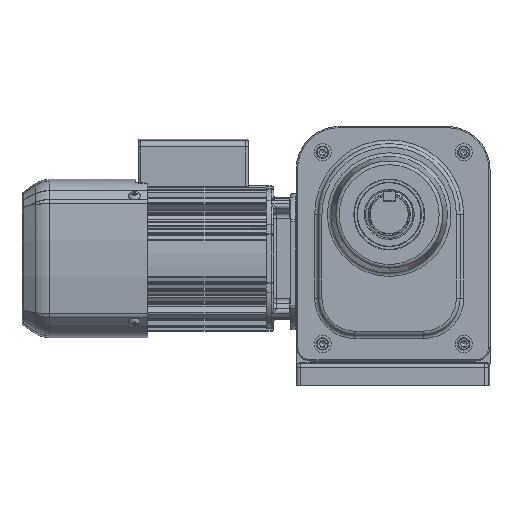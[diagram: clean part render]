
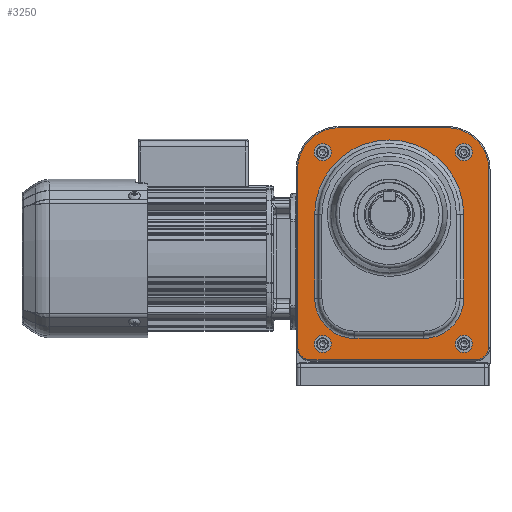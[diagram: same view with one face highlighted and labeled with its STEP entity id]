
A CAD part, front view. The second image highlights one B-rep face of the part: STEP entity #3250.
In plain terms, the highlighted planar face has unit normal (0, -1, 0).
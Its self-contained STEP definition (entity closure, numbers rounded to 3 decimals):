
#3250 = ADVANCED_FACE( '', ( #7066, #7067, #7068, #7069, #7070, #7071 ), #7072, .F. );
#7066 = FACE_BOUND( '', #15051, .T. );
#7067 = FACE_BOUND( '', #15052, .T. );
#7068 = FACE_BOUND( '', #15053, .T. );
#7069 = FACE_BOUND( '', #15054, .T. );
#7070 = FACE_BOUND( '', #15055, .T. );
#7071 = FACE_OUTER_BOUND( '', #15056, .T. );
#7072 = PLANE( '', #15057 );
#15051 = EDGE_LOOP( '', ( #26462 ) );
#15052 = EDGE_LOOP( '', ( #26463 ) );
#15053 = EDGE_LOOP( '', ( #26464 ) );
#15054 = EDGE_LOOP( '', ( #26465 ) );
#15055 = EDGE_LOOP( '', ( #26466, #26467, #26468, #26469, #26470, #26471 ) );
#15056 = EDGE_LOOP( '', ( #26472, #26473, #26474, #26475, #26476, #26477, #26478, #26479 ) );
#15057 = AXIS2_PLACEMENT_3D( '', #26480, #26481, #26482 );
#26462 = ORIENTED_EDGE( '', *, *, #31359, .T. );
#26463 = ORIENTED_EDGE( '', *, *, #33444, .T. );
#26464 = ORIENTED_EDGE( '', *, *, #32041, .T. );
#26465 = ORIENTED_EDGE( '', *, *, #33877, .T. );
#26466 = ORIENTED_EDGE( '', *, *, #33878, .T. );
#26467 = ORIENTED_EDGE( '', *, *, #33879, .T. );
#26468 = ORIENTED_EDGE( '', *, *, #33505, .T. );
#26469 = ORIENTED_EDGE( '', *, *, #30316, .T. );
#26470 = ORIENTED_EDGE( '', *, *, #31459, .T. );
#26471 = ORIENTED_EDGE( '', *, *, #33845, .T. );
#26472 = ORIENTED_EDGE( '', *, *, #32581, .T. );
#26473 = ORIENTED_EDGE( '', *, *, #31878, .T. );
#26474 = ORIENTED_EDGE( '', *, *, #33880, .T. );
#26475 = ORIENTED_EDGE( '', *, *, #31807, .T. );
#26476 = ORIENTED_EDGE( '', *, *, #31596, .T. );
#26477 = ORIENTED_EDGE( '', *, *, #33046, .T. );
#26478 = ORIENTED_EDGE( '', *, *, #31923, .T. );
#26479 = ORIENTED_EDGE( '', *, *, #33881, .T. );
#26480 = CARTESIAN_POINT( '', ( -9.725, -134., -61.966 ) );
#26481 = DIRECTION( '', ( 0., 1., 0. ) );
#26482 = DIRECTION( '', ( 0., 0., -1. ) );
#30316 = EDGE_CURVE( '', #35143, #35141, #35144, .T. );
#31359 = EDGE_CURVE( '', #36962, #36962, #36963, .T. );
#31459 = EDGE_CURVE( '', #35141, #37119, #37121, .T. );
#31596 = EDGE_CURVE( '', #37345, #37343, #37346, .F. );
#31807 = EDGE_CURVE( '', #37666, #37345, #37667, .T. );
#31878 = EDGE_CURVE( '', #37780, #37778, #37781, .T. );
#31923 = EDGE_CURVE( '', #37842, #37846, #37848, .F. );
#32041 = EDGE_CURVE( '', #38022, #38022, #38023, .T. );
#32581 = EDGE_CURVE( '', #38785, #37780, #38787, .F. );
#33046 = EDGE_CURVE( '', #37343, #37842, #39434, .T. );
#33444 = EDGE_CURVE( '', #39958, #39958, #39959, .T. );
#33505 = EDGE_CURVE( '', #40036, #35143, #40037, .T. );
#33845 = EDGE_CURVE( '', #37119, #40431, #40433, .T. );
#33877 = EDGE_CURVE( '', #40470, #40470, #40471, .T. );
#33878 = EDGE_CURVE( '', #40431, #40472, #40473, .T. );
#33879 = EDGE_CURVE( '', #40472, #40036, #40474, .T. );
#33880 = EDGE_CURVE( '', #37778, #37666, #40475, .F. );
#33881 = EDGE_CURVE( '', #37846, #38785, #40476, .T. );
#35141 = VERTEX_POINT( '', #42306 );
#35143 = VERTEX_POINT( '', #42308 );
#35144 = LINE( '', #42309, #42310 );
#36962 = VERTEX_POINT( '', #45207 );
#36963 = CIRCLE( '', #45208, 7. );
#37119 = VERTEX_POINT( '', #45405 );
#37121 = CIRCLE( '', #45407, 61. );
#37343 = VERTEX_POINT( '', #45905 );
#37345 = VERTEX_POINT( '', #45908 );
#37346 = CIRCLE( '', #45909, 34. );
#37666 = VERTEX_POINT( '', #46418 );
#37667 = LINE( '', #46419, #46420 );
#37778 = VERTEX_POINT( '', #46670 );
#37780 = VERTEX_POINT( '', #46673 );
#37781 = LINE( '', #46674, #46675 );
#37842 = VERTEX_POINT( '', #46765 );
#37846 = VERTEX_POINT( '', #46770 );
#37848 = CIRCLE( '', #46773, 34. );
#38022 = VERTEX_POINT( '', #47196 );
#38023 = CIRCLE( '', #47197, 7. );
#38785 = VERTEX_POINT( '', #48886 );
#38787 = CIRCLE( '', #48889, 11. );
#39434 = LINE( '', #50157, #50158 );
#39958 = VERTEX_POINT( '', #51112 );
#39959 = CIRCLE( '', #51113, 7. );
#40036 = VERTEX_POINT( '', #51351 );
#40037 = CIRCLE( '', #51352, 33. );
#40431 = VERTEX_POINT( '', #52112 );
#40433 = LINE( '', #52114, #52115 );
#40470 = VERTEX_POINT( '', #52161 );
#40471 = CIRCLE( '', #52162, 7. );
#40472 = VERTEX_POINT( '', #52163 );
#40473 = CIRCLE( '', #52164, 33. );
#40474 = LINE( '', #52165, #52166 );
#40475 = CIRCLE( '', #52167, 11. );
#40476 = LINE( '', #52168, #52169 );
#42306 = CARTESIAN_POINT( '', ( -141.225, -134., 46.034 ) );
#42308 = CARTESIAN_POINT( '', ( -141.225, -134., -22.466 ) );
#42309 = CARTESIAN_POINT( '', ( -141.225, -134., -61.966 ) );
#42310 = VECTOR( '', #53844, 1000. );
#45207 = CARTESIAN_POINT( '', ( -134.725, -134., 104.034 ) );
#45208 = AXIS2_PLACEMENT_3D( '', #55588, #55589, #55590 );
#45405 = CARTESIAN_POINT( '', ( -19.225, -134., 46.034 ) );
#45407 = AXIS2_PLACEMENT_3D( '', #55731, #55732, #55733 );
#45905 = CARTESIAN_POINT( '', ( -32.725, -134., 117.034 ) );
#45908 = CARTESIAN_POINT( '', ( 1.275, -134., 83.034 ) );
#45909 = AXIS2_PLACEMENT_3D( '', #55956, #55957, #55958 );
#46418 = CARTESIAN_POINT( '', ( 1.275, -134., -61.966 ) );
#46419 = CARTESIAN_POINT( '', ( 1.275, -134., 83.034 ) );
#46420 = VECTOR( '', #56239, 1000. );
#46670 = CARTESIAN_POINT( '', ( -9.725, -134., -72.966 ) );
#46673 = CARTESIAN_POINT( '', ( -144.225, -134., -72.966 ) );
#46674 = CARTESIAN_POINT( '', ( -9.725, -134., -72.966 ) );
#46675 = VECTOR( '', #56326, 1000. );
#46765 = CARTESIAN_POINT( '', ( -121.225, -134., 117.034 ) );
#46770 = CARTESIAN_POINT( '', ( -155.225, -134., 83.034 ) );
#46773 = AXIS2_PLACEMENT_3D( '', #56393, #56394, #56395 );
#47196 = CARTESIAN_POINT( '', ( -19.225, -134., -52.966 ) );
#47197 = AXIS2_PLACEMENT_3D( '', #56540, #56541, #56542 );
#48886 = CARTESIAN_POINT( '', ( -155.225, -134., -61.966 ) );
#48889 = AXIS2_PLACEMENT_3D( '', #57247, #57248, #57249 );
#50157 = CARTESIAN_POINT( '', ( -121.225, -134., 117.034 ) );
#50158 = VECTOR( '', #57843, 1000. );
#51112 = CARTESIAN_POINT( '', ( -134.725, -134., -52.966 ) );
#51113 = AXIS2_PLACEMENT_3D( '', #58435, #58436, #58437 );
#51351 = CARTESIAN_POINT( '', ( -108.225, -134., -55.466 ) );
#51352 = AXIS2_PLACEMENT_3D( '', #58487, #58488, #58489 );
#52112 = CARTESIAN_POINT( '', ( -19.225, -134., -22.466 ) );
#52114 = CARTESIAN_POINT( '', ( -19.225, -134., -61.966 ) );
#52115 = VECTOR( '', #58837, 1000. );
#52161 = CARTESIAN_POINT( '', ( -19.225, -134., 104.034 ) );
#52162 = AXIS2_PLACEMENT_3D( '', #58865, #58866, #58867 );
#52163 = CARTESIAN_POINT( '', ( -52.225, -134., -55.466 ) );
#52164 = AXIS2_PLACEMENT_3D( '', #58868, #58869, #58870 );
#52165 = CARTESIAN_POINT( '', ( -9.725, -134., -55.466 ) );
#52166 = VECTOR( '', #58871, 1000. );
#52167 = AXIS2_PLACEMENT_3D( '', #58872, #58873, #58874 );
#52168 = CARTESIAN_POINT( '', ( -155.225, -134., -61.966 ) );
#52169 = VECTOR( '', #58875, 1000. );
#53844 = DIRECTION( '', ( 0., 0., 1. ) );
#55588 = CARTESIAN_POINT( '', ( -134.725, -134., 97.034 ) );
#55589 = DIRECTION( '', ( 0., 1., 0. ) );
#55590 = DIRECTION( '', ( 0., 0., 1. ) );
#55731 = CARTESIAN_POINT( '', ( -80.225, -134., 46.034 ) );
#55732 = DIRECTION( '', ( 0., 1., 0. ) );
#55733 = DIRECTION( '', ( 0., 0., -1. ) );
#55956 = CARTESIAN_POINT( '', ( -32.725, -134., 83.034 ) );
#55957 = DIRECTION( '', ( 0., 1., 0. ) );
#55958 = DIRECTION( '', ( 0., 0., -1. ) );
#56239 = DIRECTION( '', ( 0., 0., 1. ) );
#56326 = DIRECTION( '', ( 1., 0., 0. ) );
#56393 = CARTESIAN_POINT( '', ( -121.225, -134., 83.034 ) );
#56394 = DIRECTION( '', ( 0., 1., 0. ) );
#56395 = DIRECTION( '', ( 0., 0., -1. ) );
#56540 = CARTESIAN_POINT( '', ( -19.225, -134., -59.966 ) );
#56541 = DIRECTION( '', ( 0., 1., 0. ) );
#56542 = DIRECTION( '', ( 0., 0., 1. ) );
#57247 = CARTESIAN_POINT( '', ( -144.225, -134., -61.966 ) );
#57248 = DIRECTION( '', ( 0., 1., 0. ) );
#57249 = DIRECTION( '', ( 0., 0., -1. ) );
#57843 = DIRECTION( '', ( -1., 0., 0. ) );
#58435 = CARTESIAN_POINT( '', ( -134.725, -134., -59.966 ) );
#58436 = DIRECTION( '', ( 0., 1., 0. ) );
#58437 = DIRECTION( '', ( 0., 0., 1. ) );
#58487 = CARTESIAN_POINT( '', ( -108.225, -134., -22.466 ) );
#58488 = DIRECTION( '', ( 0., 1., 0. ) );
#58489 = DIRECTION( '', ( 0., 0., -1. ) );
#58837 = DIRECTION( '', ( 0., 0., -1. ) );
#58865 = CARTESIAN_POINT( '', ( -19.225, -134., 97.034 ) );
#58866 = DIRECTION( '', ( 0., 1., 0. ) );
#58867 = DIRECTION( '', ( 0., 0., 1. ) );
#58868 = CARTESIAN_POINT( '', ( -52.225, -134., -22.466 ) );
#58869 = DIRECTION( '', ( 0., 1., 0. ) );
#58870 = DIRECTION( '', ( 0., 0., -1. ) );
#58871 = DIRECTION( '', ( -1., 0., 0. ) );
#58872 = CARTESIAN_POINT( '', ( -9.725, -134., -61.966 ) );
#58873 = DIRECTION( '', ( 0., 1., 0. ) );
#58874 = DIRECTION( '', ( 0., 0., -1. ) );
#58875 = DIRECTION( '', ( 0., 0., -1. ) );
